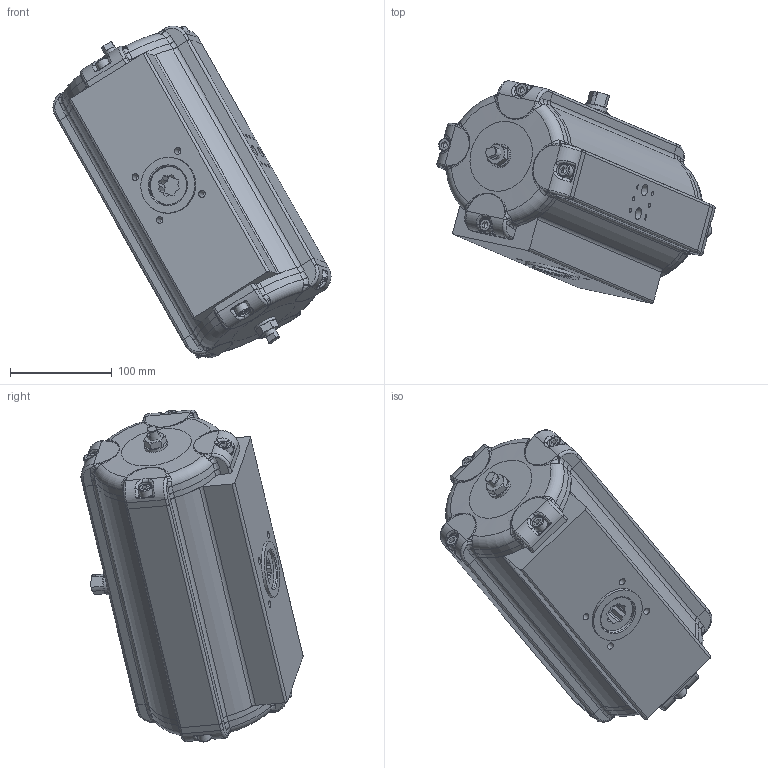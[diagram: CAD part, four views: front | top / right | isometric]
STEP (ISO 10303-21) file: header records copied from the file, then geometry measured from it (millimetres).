
FILE_DESCRIPTION((''),'2;1');
FILE_NAME('C:\Dokumente und Einstellungen\ko-p\Desktop\SAD_25-180°_BR03.stp','2011-02-03T09:49:56',('war'),(''),'Autodesk Inventor 2010','Autodesk Inventor 2010','');
FILE_SCHEMA(('AUTOMOTIVE_DESIGN { 1 0 10303 214 1 1 1 1 }'));
Length unit declared in the file: millimetre
Products named in the file (1): ENG-053020_Konturvereinfachung_1
Bounding box: 272.83 x 217.83 x 325.62 mm (x, y, z)
Surface area: 230260.7 mm2 (no closed solid volume)
Topology: 0 solids, 31 shells, 492 faces, 1530 edges, 1039 vertices
Faces by surface type: plane 192, bspline 127, cylinder 93, torus 49, cone 31
Full cylindrical faces by diameter (mm): 12 x2, 13 x8, 20 x1, 21.8 x1, 23 x2, 37.8 x1, 55 x1
Entity records: 20779 total; most frequent: CARTESIAN_POINT 7812, ORIENTED_EDGE 2479, DIRECTION 2362, EDGE_CURVE 1448, VERTEX_POINT 1013, AXIS2_PLACEMENT_3D 913, EDGE_LOOP 609, VECTOR 536
